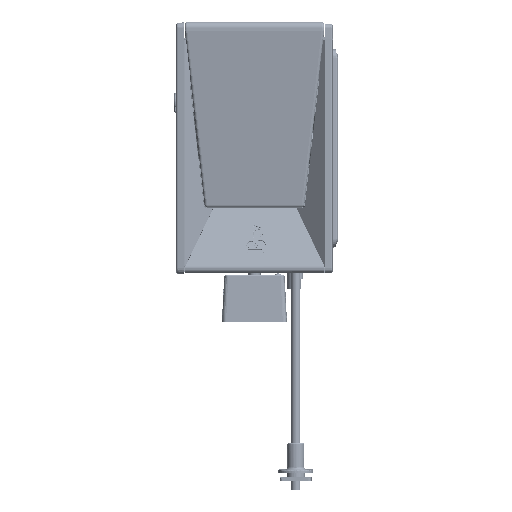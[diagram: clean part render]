
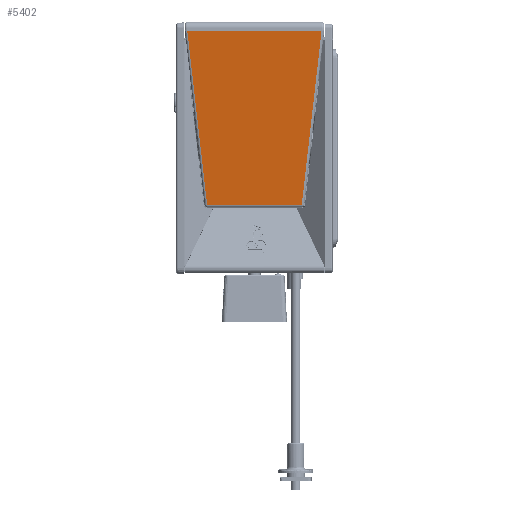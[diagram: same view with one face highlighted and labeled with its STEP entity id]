
A CAD part, left-side view. The second image highlights one B-rep face of the part: STEP entity #5402.
In plain terms, the highlighted planar face has unit normal (-0.994, 0, -0.11).
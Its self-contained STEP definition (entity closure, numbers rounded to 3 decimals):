
#2709=DIRECTION('',(0.,1.,0.));
#2710=VECTOR('',#2709,51.606);
#2711=CARTESIAN_POINT('',(-390.3,-25.803,
45.26));
#2712=LINE('',#2711,#2710);
#3401=CARTESIAN_POINT('',(-382.928,18.19,
-21.582));
#3403=DIRECTION('',(0.,-1.,0.));
#3404=VECTOR('',#3403,36.379);
#3405=CARTESIAN_POINT('',(-382.928,18.19,
-21.582));
#3406=LINE('',#3405,#3404);
#3418=DIRECTION('',(-0.109,0.112,0.988));
#3419=VECTOR('',#3418,67.677);
#3420=CARTESIAN_POINT('',(-382.928,18.19,
-21.582));
#3421=LINE('',#3420,#3419);
#3422=DIRECTION('',(0.109,0.112,-0.988));
#3423=VECTOR('',#3422,67.677);
#3424=CARTESIAN_POINT('',(-390.3,-25.803,
45.26));
#3425=LINE('',#3424,#3423);
#3928=CARTESIAN_POINT('',(-390.3,25.803,45.26));
#3930=VERTEX_POINT('',#3928);
#3933=CARTESIAN_POINT('',(-390.3,-25.803,
45.26));
#3934=VERTEX_POINT('',#3933);
#4136=VERTEX_POINT('',#3401);
#4137=CARTESIAN_POINT('',(-382.928,-18.19,
-21.582));
#4138=VERTEX_POINT('',#4137);
#5389=CARTESIAN_POINT('',(-390.3,-26.8,45.26));
#5390=DIRECTION('',(0.994,0.,0.11));
#5391=DIRECTION('',(0.11,0.,-0.994));
#5392=AXIS2_PLACEMENT_3D('',#5389,#5390,#5391);
#5393=PLANE('',#5392);
#5395=ORIENTED_EDGE('',*,*,#5394,.T.);
#5396=ORIENTED_EDGE('',*,*,#4225,.F.);
#5398=ORIENTED_EDGE('',*,*,#5397,.T.);
#5399=ORIENTED_EDGE('',*,*,#5380,.F.);
#5400=EDGE_LOOP('',(#5395,#5396,#5398,#5399));
#5401=FACE_OUTER_BOUND('',#5400,.F.);
#4225=EDGE_CURVE('',#3934,#3930,#2712,.T.);
#5380=EDGE_CURVE('',#4136,#4138,#3406,.T.);
#5394=EDGE_CURVE('',#4136,#3930,#3421,.T.);
#5397=EDGE_CURVE('',#3934,#4138,#3425,.T.);
#5402=ADVANCED_FACE('',(#5401),#5393,.F.);
